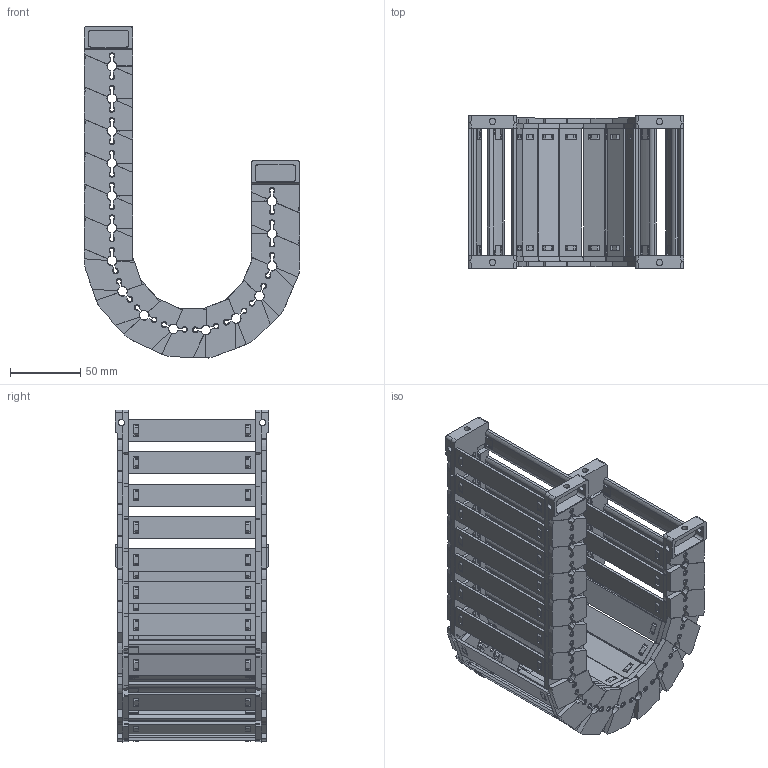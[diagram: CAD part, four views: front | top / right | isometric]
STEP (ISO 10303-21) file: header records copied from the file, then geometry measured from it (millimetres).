
FILE_DESCRIPTION((''),'2;1');
FILE_NAME('JY-28X90-R55_ASM','2026-03-26T08:23:02',('admin'),(''),'CREO PARAMETRIC BY PTC INC, 2021023','CREO PARAMETRIC BY PTC INC, 2021023','');
FILE_SCHEMA(('CONFIG_CONTROL_DESIGN'));
Length unit declared in the file: millimetre
Products named in the file (11): 28XL-L; 25-35XL-YP; 28XL-R; ASM0001_ASM; 28-LTT-A-L; 28-LTT-A-R; 28XL-LTT-A_ASM; 28-LTT-B-L; 28-LTT-B-R; 28XL-LTT-B_ASM; JY-28X90-R55_ASM
Assembly tree (29 placements, depth 3):
  JY-28X90-R55_ASM
    ASM0001_ASM  x15
      28XL-L
      25-35XL-YP
      28XL-R
    28XL-LTT-A_ASM
      28-LTT-A-L
      25-35XL-YP  x2
      28-LTT-A-R
    28XL-LTT-B_ASM
      28-LTT-B-L
      25-35XL-YP  x2
      28-LTT-B-R
Bounding box: 153.11 x 109 x 235.62 mm (x, y, z)
Volume: 329067.2 mm3; surface area: 238246 mm2
Topology: 68 solids, 68 shells, 5486 faces, 16300 edges, 10882 vertices
Faces by surface type: plane 3597, cone 973, cylinder 796, bspline 120
Entity records: 29071 total; most frequent: CARTESIAN_POINT 9487, ORIENTED_EDGE 4352, DIRECTION 3649, EDGE_CURVE 2176, VERTEX_POINT 1454, VECTOR 1365, LINE 1365, AXIS2_PLACEMENT_3D 1142
